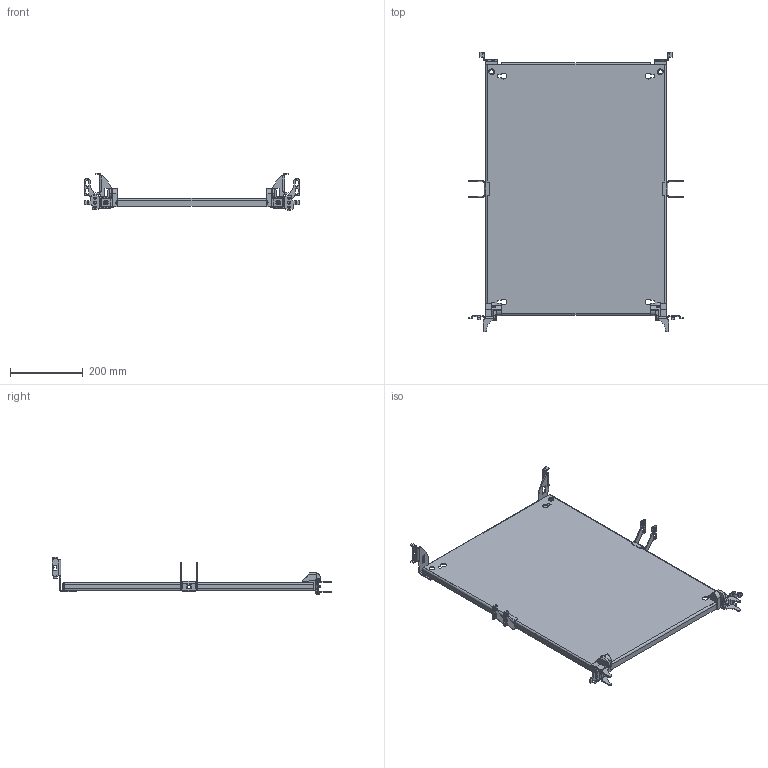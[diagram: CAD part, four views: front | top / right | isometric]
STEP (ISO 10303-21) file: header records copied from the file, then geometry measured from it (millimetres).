
FILE_DESCRIPTION (( 'STEP AP214' ), '1' );
FILE_NAME ('MSD 80.60 ÑÁ Ìîíòàæíàÿ ïàíåëü â ñáîðå.STEP', '2023-12-11T04:43:22', ( '' ), ( '' ), 'SwSTEP 2.0', 'SolidWorks 2019', '' );
FILE_SCHEMA (( 'AUTOMOTIVE_DESIGN' ));
Length unit declared in the file: millimetre
Products named in the file (8): TS-010_L Âåðõíèé äåðæàòåëü ìîíòàæíîé ïàíåëè; MSD 80.60 ÑÁ Ìîíòàæíàÿ ïàíåëü â ñáîðå; TS-011_L Íèæíèé äåðæàòåëü ìîíòàæíîé ïàíåëè; TS-012 Íèæíèé äåðæàòåëü ìîíòàæíîé ïàíåëè; BMD 6 Ôèêñàòîð ìîíòàæíîé ïàíåëè; TS-010_R Âåðõíèé äåðæàòåëü ìîíòàæíîé ïàíåëè; TS-011_R Íèæíèé äåðæàòåëü ìîíòàæíîé ïàíåëè; MSD X.Y Ìîíòàæíàÿ ïàíåëü_MSD 80.60 Œ®­â ¦­ ï ¯ ­¥«ì
Assembly tree (9 placements, depth 2):
  MSD 80.60 ÑÁ Ìîíòàæíàÿ ïàíåëü â ñáîðå
    MSD X.Y Ìîíòàæíàÿ ïàíåëü_MSD 80.60 Œ®­â ¦­ ï ¯ ­¥«ì
    TS-011_L Íèæíèé äåðæàòåëü ìîíòàæíîé ïàíåëè
    TS-011_R Íèæíèé äåðæàòåëü ìîíòàæíîé ïàíåëè
    TS-010_R Âåðõíèé äåðæàòåëü ìîíòàæíîé ïàíåëè
    TS-010_L Âåðõíèé äåðæàòåëü ìîíòàæíîé ïàíåëè
    TS-012 Íèæíèé äåðæàòåëü ìîíòàæíîé ïàíåëè  x2
    BMD 6 Ôèêñàòîð ìîíòàæíîé ïàíåëè  x2
Bounding box: 594 x 771.5 x 103.7 mm (x, y, z)
Volume: 1169001.2 mm3; surface area: 908496.8 mm2
Topology: 9 solids, 9 shells, 786 faces, 2130 edges, 1368 vertices
Faces by surface type: plane 450, cylinder 324, bspline 8, cone 4
Entity records: 19559 total; most frequent: CARTESIAN_POINT 3799, ORIENTED_EDGE 3252, DIRECTION 3216, EDGE_CURVE 1626, VECTOR 1132, LINE 1132, VERTEX_POINT 1046, AXIS2_PLACEMENT_3D 1042
